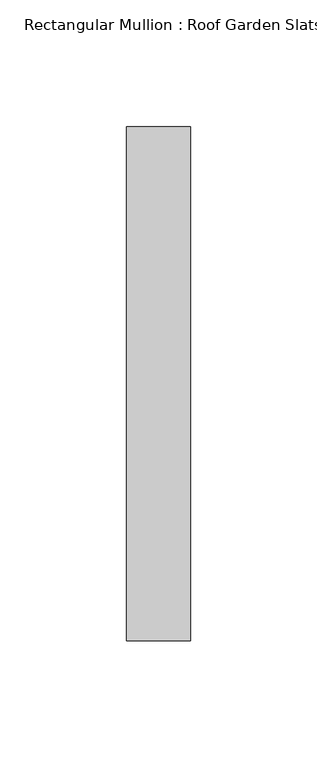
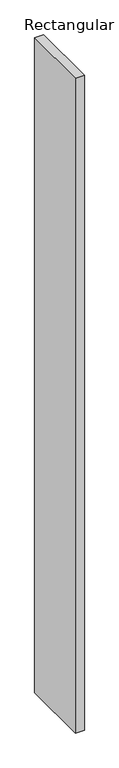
"""IFC4 building model written with IfcOpenShell, lengths in millimetres: member geometry, Rectangular Mullion : Roof Garden Slats."""

import ifcopenshell
import ifcopenshell.guid

model = None  # the IFC model being written
_history = None  # IfcOwnerHistory: only IFC2X3 demands one
_inside = {}  # id of a spatial element -> (the spatial element, [elements in it])
_under = {}  # id of a project, library or spatial element -> (it, [spatial elements below it])
_declared = {}  # id of a project -> (the project, [libraries it declares])
_typed = {}  # id of a type object -> (the type object, [elements of that type])
_made_of = {}  # id of a material, layer set ... -> (it, [elements and type objects made of it])


def new_model(schema):
    """Start an empty IFC model of exactly this schema.

    Asked for "IFC4X3", IfcOpenShell would pick the latest addendum, in which some entities
    have other attributes; the version numbers below select the first issue.
    IFC2X3 requires an IfcOwnerHistory on every rooted entity: one is made here for all.
    """
    global model, _history
    if schema == "IFC4X3":
        model = ifcopenshell.file(schema_version=(4, 3, 0, 0))
    else:
        model = ifcopenshell.file(schema=schema)
    _inside.clear()
    _under.clear()
    _declared.clear()
    _typed.clear()
    _made_of.clear()
    _history = None
    if model.schema == "IFC2X3":
        org = make("IfcOrganization", Name="unknown")
        user = make(
            "IfcPersonAndOrganization",
            ThePerson=make("IfcPerson", FamilyName="unknown"),
            TheOrganization=org,
        )
        app = make(
            "IfcApplication",
            ApplicationDeveloper=org,
            Version="unknown",
            ApplicationFullName="unknown",
            ApplicationIdentifier="unknown",
        )
        _history = make(
            "IfcOwnerHistory",
            OwningUser=user,
            OwningApplication=app,
            ChangeAction="ADDED",
            CreationDate=0,
        )
    return model


def make(cls, **values):
    """One entity of the class cls with the attributes given. An attribute that is None is left unset."""
    return model.create_entity(
        cls, **{name: value for name, value in values.items() if value is not None}
    )


def rooted(cls, **values):
    """An entity with a GlobalId (a new one), such as an element, a storey or a relation."""
    return make(cls, GlobalId=ifcopenshell.guid.new(), OwnerHistory=_history, **values)


def si_unit(unit_type, name, prefix=None):
    """IfcSIUnit, for example si_unit("LENGTHUNIT", "METRE", prefix="MILLI")."""
    return make("IfcSIUnit", UnitType=unit_type, Prefix=prefix, Name=name)


def assignment(units):
    """IfcUnitAssignment: the units of a project."""
    return None if units is None else make("IfcUnitAssignment", Units=units)


def point(xyz):
    """IfcCartesianPoint."""
    return None if xyz is None else make("IfcCartesianPoint", Coordinates=xyz)


def direction(xyz):
    """IfcDirection."""
    return None if xyz is None else make("IfcDirection", DirectionRatios=xyz)


def frame(location, z_axis=None, x_axis=None):
    """IfcAxis2Placement3D, a coordinate frame: its origin and axes. An axis left out is left unset."""
    return make(
        "IfcAxis2Placement3D",
        Location=point(location),
        Axis=direction(z_axis),
        RefDirection=direction(x_axis),
    )


def origin():
    """The frame at (0, 0, 0) with its axes left unset."""
    return frame((0.0, 0.0, 0.0))


def place(relative_to, where):
    """IfcLocalPlacement: puts the frame where relative to a parent placement (None: the world)."""
    return make(
        "IfcLocalPlacement", PlacementRelTo=relative_to, RelativePlacement=where
    )


def context(
    kind, dimensions, precision=None, world=None, true_north=None, identifier=None
):
    """IfcGeometricRepresentationContext, for example the 3D "Model" context."""
    return make(
        "IfcGeometricRepresentationContext",
        ContextIdentifier=identifier,
        ContextType=kind,
        CoordinateSpaceDimension=dimensions,
        Precision=precision,
        WorldCoordinateSystem=world,
        TrueNorth=true_north,
    )


def project(units=None, contexts=None):
    """IfcProject with its units and contexts."""
    return rooted(
        "IfcProject",
        Name="project",
        RepresentationContexts=contexts,
        UnitsInContext=assignment(units),
    )


def spatial(cls, under=None, at=None, **own):
    """A site, building, storey or space (cls), placed at a placement, below another one or the project."""
    s = rooted(cls, ObjectPlacement=at, **own)
    if under is not None:
        _under.setdefault(under.id(), (under, []))[1].append(s)
    return s


def polyline(points):
    """IfcPolyline through the points."""
    return make("IfcPolyline", Points=[point(p) for p in points])


def outline(outer, holes=None, kind="AREA"):
    """IfcArbitraryClosedProfileDef: a profile drawn as a closed curve; with holes, ...WithVoids."""
    if holes is None:
        return make("IfcArbitraryClosedProfileDef", ProfileType=kind, OuterCurve=outer)
    return make(
        "IfcArbitraryProfileDefWithVoids",
        ProfileType=kind,
        OuterCurve=outer,
        InnerCurves=holes,
    )


def extrude(swept, where, along, depth):
    """IfcExtrudedAreaSolid: the profile swept, set in the frame where, extruded along a direction by depth."""
    return make(
        "IfcExtrudedAreaSolid",
        SweptArea=swept,
        Position=where,
        ExtrudedDirection=direction(along),
        Depth=depth,
    )


def shape(context_of_items, identifier, shape_type, items):
    """IfcShapeRepresentation: the items that make up one representation, for example the "Body"."""
    return make(
        "IfcShapeRepresentation",
        ContextOfItems=context_of_items,
        RepresentationIdentifier=identifier,
        RepresentationType=shape_type,
        Items=items,
    )


def source(mapping_origin, context_of_items, identifier, shape_type, items):
    """IfcRepresentationMap: a shape defined once, which mapped items show again and again."""
    return make(
        "IfcRepresentationMap",
        MappingOrigin=mapping_origin,
        MappedRepresentation=shape(context_of_items, identifier, shape_type, items),
    )


def transform(
    local_origin,
    x_axis=None,
    y_axis=None,
    z_axis=None,
    scale=None,
    scale2=None,
    scale3=None,
    uniform=True,
):
    """IfcCartesianTransformationOperator3D, or its non-uniform kind. x_axis, y_axis, z_axis: its Axis1, 2, 3."""
    if uniform:
        return make(
            "IfcCartesianTransformationOperator3D",
            Axis1=direction(x_axis),
            Axis2=direction(y_axis),
            LocalOrigin=point(local_origin),
            Scale=scale,
            Axis3=direction(z_axis),
        )
    return make(
        "IfcCartesianTransformationOperator3DnonUniform",
        Axis1=direction(x_axis),
        Axis2=direction(y_axis),
        LocalOrigin=point(local_origin),
        Scale=scale,
        Axis3=direction(z_axis),
        Scale2=scale2,
        Scale3=scale3,
    )


def mapped(mapping_source, mapping_target):
    """IfcMappedItem: shows the shape of a source again, moved by a transform."""
    return make(
        "IfcMappedItem", MappingSource=mapping_source, MappingTarget=mapping_target
    )


def made_of(thing, what):
    """Note that an element or type object is made of a material, layer set ...; save() writes the relation."""
    if what is not None:
        _made_of.setdefault(what.id(), (what, []))[1].append(thing)
    return thing


def element(
    cls,
    number,
    at=None,
    inside=None,
    cuts=None,
    type_object=None,
    material=None,
    context=None,
    identifier="Body",
    shape_type=None,
    held_by="IfcProductDefinitionShape",
    body=None,
    shapes=None,
    **own,
):
    """One element of the class cls, such as IfcWall. Its Tag is "e" and its number.

    at: its placement. inside: the storey or other place that contains it. cuts: it is an
    opening in that element (IfcRelVoidsElement). A single representation is given by context,
    identifier, shape_type and body (its items); several are given by shapes. held_by: the class
    of the entity that holds the representations. save() writes the other relations.
    """
    e = rooted(cls, Tag="e%d" % number, ObjectPlacement=at, **own)
    if body is not None:
        shapes = [shape(context, identifier, shape_type, body)]
    if shapes is not None:
        e.Representation = make(held_by, Representations=shapes)
    if inside is not None:
        _inside.setdefault(inside.id(), (inside, []))[1].append(e)
    if cuts is not None:
        rooted(
            "IfcRelVoidsElement", RelatingBuildingElement=cuts, RelatedOpeningElement=e
        )
    if type_object is not None:
        _typed.setdefault(type_object.id(), (type_object, []))[1].append(e)
    return made_of(e, material)


def aggregate(whole, parts):
    """IfcRelAggregates: a whole, such as a stair, and the parts it consists of."""
    return rooted("IfcRelAggregates", RelatingObject=whole, RelatedObjects=parts)


def save(model, path):
    """Write the relations noted so far, then the file.

    IfcRelAggregates (storeys below a building ...), IfcRelContainedInSpatialStructure (elements
    in a storey), IfcRelDefinesByType, IfcRelAssociatesMaterial and IfcRelDeclares: one each for
    every whole, place, type object, material and project.
    """
    for whole, parts in _under.values():
        aggregate(whole, parts)
    for where, things in _inside.values():
        rooted(
            "IfcRelContainedInSpatialStructure",
            RelatedElements=things,
            RelatingStructure=where,
        )
    for kind, things in _typed.values():
        rooted("IfcRelDefinesByType", RelatedObjects=things, RelatingType=kind)
    for what, things in _made_of.values():
        rooted("IfcRelAssociatesMaterial", RelatedObjects=things, RelatingMaterial=what)
    for by, libraries in _declared.values():
        rooted("IfcRelDeclares", RelatingContext=by, RelatedDefinitions=libraries)
    model.write(path)


def rectangular_mullion_roof_garden_slats_419e689b(model_context):
    return source(origin(), model_context, "Body", "SweptSolid", [
        extrude(outline(polyline([(12.7, 139.7), (12.7, -63.5), (-12.7, -63.5), (-12.7, 139.7), (12.7, 139.7)])), frame((0.0, 0.0, -1991.3475719), z_axis=(0.0, 0.0, 1.0), x_axis=(1.0, 0.0, 0.0)), (0.0, 0.0, 1.0), 1991.3475719),
    ])


if __name__ == "__main__":
    model = new_model("IFC4")
    model_context = context("Model", 3, world=origin())
    ifc_project = project(units=[si_unit("LENGTHUNIT", "METRE", prefix="MILLI")], contexts=[model_context])
    site = spatial("IfcSite", under=ifc_project)
    building = spatial("IfcBuilding", under=site)
    placement = place(None, origin())
    rectangular_mullion_roof_garden_slats_shape = rectangular_mullion_roof_garden_slats_419e689b(model_context)
    element("IfcMember", 1, ObjectType="Rectangular Mullion : Roof Garden Slats", at=placement, inside=building, context=model_context, shape_type="MappedRepresentation", body=[
        mapped(rectangular_mullion_roof_garden_slats_shape, transform((0.0, 0.0, 0.0), x_axis=(1.0, 0.0, 0.0), y_axis=(0.0, 1.0, 0.0), z_axis=(0.0, 0.0, 1.0))),
    ])
    save(model, "model.ifc")
